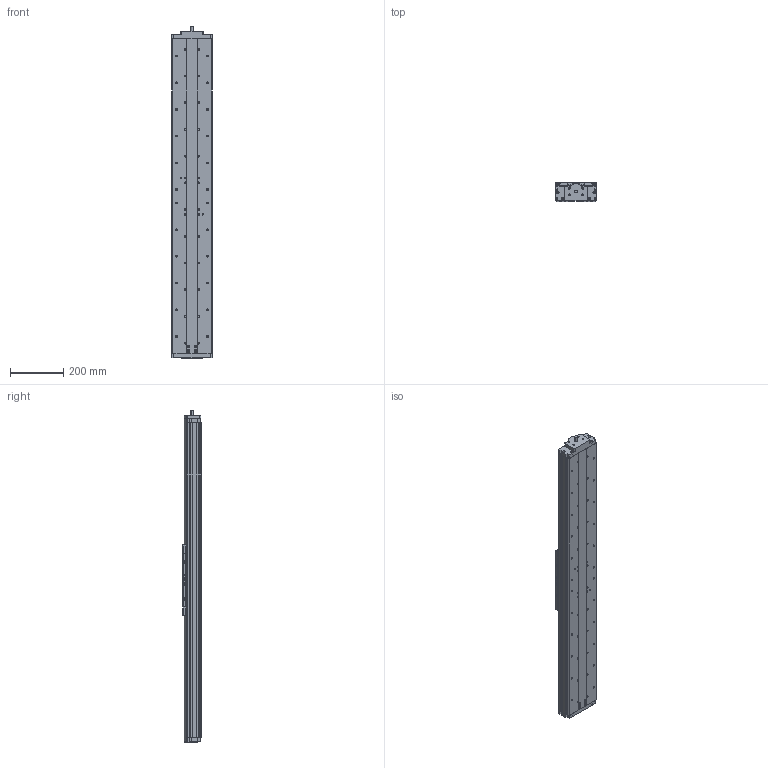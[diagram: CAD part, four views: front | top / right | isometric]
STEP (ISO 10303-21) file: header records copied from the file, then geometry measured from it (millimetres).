
FILE_DESCRIPTION((''),'2;1');
FILE_NAME('406XR-09_ASM','2002-07-12T',('FKrakosh'),(''),'PRO/ENGINEER BY PARAMETRIC TECHNOLOGY CORPORATION, 2000420','PRO/ENGINEER BY PARAMETRIC TECHNOLOGY CORPORATION, 2000420','');
FILE_SCHEMA(('CONFIG_CONTROL_DESIGN'));
Length unit declared in the file: millimetre
Products named in the file (8): 406XR-BASE-09; 406XR-REAR-END-BLK; 406XR-CARRIAGE; 10853610-01; 406XR-FEB-10MM; 10426110; 30321911; 406XR-09_ASM
Assembly tree (8 placements, depth 2):
  406XR-09_ASM
    406XR-BASE-09
    406XR-REAR-END-BLK
    406XR-CARRIAGE
    10853610-01  x2
    406XR-FEB-10MM
    10426110
    30321911
Bounding box: 150 x 69.9 x 1242.73 mm (x, y, z)
Volume: 10470003.9 mm3; surface area: 779832.7 mm2
Topology: 8 solids, 70 shells, 984 faces, 2428 edges, 1628 vertices
Faces by surface type: cylinder 518, plane 436, bspline 16, sphere 12, cone 2
Entity records: 27960 total; most frequent: CARTESIAN_POINT 5936, DIRECTION 4886, ORIENTED_EDGE 4102, EDGE_CURVE 2171, AXIS2_PLACEMENT_3D 1905, VERTEX_POINT 1471, EDGE_LOOP 1110, VECTOR 1076
